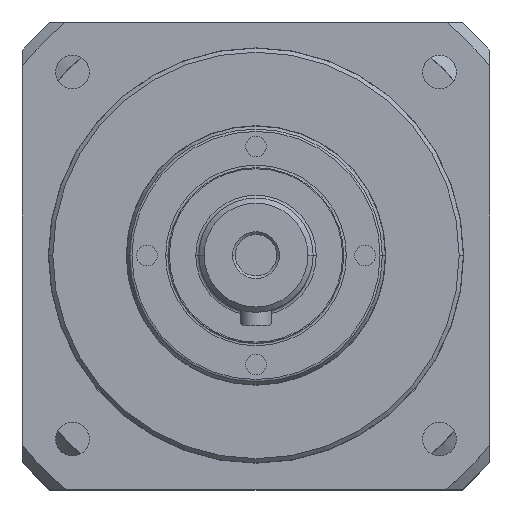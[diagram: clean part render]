
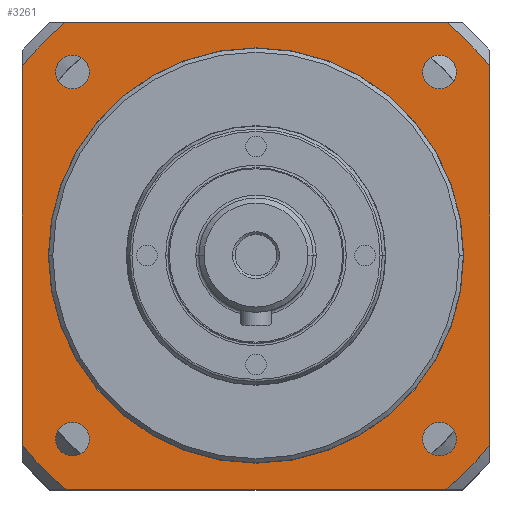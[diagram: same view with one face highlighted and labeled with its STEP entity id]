
A CAD part, top view. The second image highlights one B-rep face of the part: STEP entity #3261.
In plain terms, the highlighted planar face has unit normal (0, 0, 1).
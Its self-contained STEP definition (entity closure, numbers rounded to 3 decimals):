
#1020=CARTESIAN_POINT('',(0.,0.,49.5));
#1021=DIRECTION('',(0.,0.,1.));
#1022=DIRECTION('',(-1.,0.,0.));
#1023=AXIS2_PLACEMENT_3D('',#1020,#1021,#1022);
#1025=CARTESIAN_POINT('',(0.,0.,49.5));
#1026=DIRECTION('',(0.,0.,1.));
#1027=DIRECTION('',(1.,0.,0.));
#1028=AXIS2_PLACEMENT_3D('',#1025,#1026,#1027);
#1030=CARTESIAN_POINT('',(0.,0.,49.5));
#1031=DIRECTION('',(0.,0.,1.));
#1032=DIRECTION('',(-0.776,-0.631,0.));
#1033=AXIS2_PLACEMENT_3D('',#1030,#1031,#1032);
#1035=DIRECTION('',(0.,-1.,0.));
#1036=VECTOR('',#1035,73.185);
#1037=CARTESIAN_POINT('',(-45.,36.592,49.5));
#1038=LINE('',#1037,#1036);
#1039=CARTESIAN_POINT('',(0.,0.,49.5));
#1040=DIRECTION('',(0.,0.,1.));
#1041=DIRECTION('',(-0.631,0.776,0.));
#1042=AXIS2_PLACEMENT_3D('',#1039,#1040,#1041);
#1044=DIRECTION('',(-1.,0.,0.));
#1045=VECTOR('',#1044,73.185);
#1046=CARTESIAN_POINT('',(36.592,45.,49.5));
#1047=LINE('',#1046,#1045);
#1048=CARTESIAN_POINT('',(0.,0.,49.5));
#1049=DIRECTION('',(0.,0.,1.));
#1050=DIRECTION('',(0.776,0.631,0.));
#1051=AXIS2_PLACEMENT_3D('',#1048,#1049,#1050);
#1053=DIRECTION('',(0.,1.,0.));
#1054=VECTOR('',#1053,73.185);
#1055=CARTESIAN_POINT('',(45.,-36.592,49.5));
#1056=LINE('',#1055,#1054);
#1057=CARTESIAN_POINT('',(0.,0.,49.5));
#1058=DIRECTION('',(0.,0.,1.));
#1059=DIRECTION('',(0.631,-0.776,0.));
#1060=AXIS2_PLACEMENT_3D('',#1057,#1058,#1059);
#1062=DIRECTION('',(1.,0.,0.));
#1063=VECTOR('',#1062,73.185);
#1064=CARTESIAN_POINT('',(-36.592,-45.,49.5));
#1065=LINE('',#1064,#1063);
#1066=CARTESIAN_POINT('',(35.355,35.355,49.5));
#1067=DIRECTION('',(0.,0.,-1.));
#1068=DIRECTION('',(-1.,0.,0.));
#1069=AXIS2_PLACEMENT_3D('',#1066,#1067,#1068);
#1071=CARTESIAN_POINT('',(35.355,35.355,49.5));
#1072=DIRECTION('',(0.,0.,-1.));
#1073=DIRECTION('',(1.,0.,0.));
#1074=AXIS2_PLACEMENT_3D('',#1071,#1072,#1073);
#1076=CARTESIAN_POINT('',(-35.355,35.355,49.5));
#1077=DIRECTION('',(0.,0.,-1.));
#1078=DIRECTION('',(-1.,0.,0.));
#1079=AXIS2_PLACEMENT_3D('',#1076,#1077,#1078);
#1081=CARTESIAN_POINT('',(-35.355,35.355,49.5));
#1082=DIRECTION('',(0.,0.,-1.));
#1083=DIRECTION('',(1.,0.,0.));
#1084=AXIS2_PLACEMENT_3D('',#1081,#1082,#1083);
#1086=CARTESIAN_POINT('',(-35.355,-35.355,49.5));
#1087=DIRECTION('',(0.,0.,-1.));
#1088=DIRECTION('',(-1.,0.,0.));
#1089=AXIS2_PLACEMENT_3D('',#1086,#1087,#1088);
#1091=CARTESIAN_POINT('',(-35.355,-35.355,49.5));
#1092=DIRECTION('',(0.,0.,-1.));
#1093=DIRECTION('',(1.,0.,0.));
#1094=AXIS2_PLACEMENT_3D('',#1091,#1092,#1093);
#1096=CARTESIAN_POINT('',(35.355,-35.355,49.5));
#1097=DIRECTION('',(0.,0.,-1.));
#1098=DIRECTION('',(-1.,0.,0.));
#1099=AXIS2_PLACEMENT_3D('',#1096,#1097,#1098);
#1101=CARTESIAN_POINT('',(35.355,-35.355,49.5));
#1102=DIRECTION('',(0.,0.,-1.));
#1103=DIRECTION('',(1.,0.,0.));
#1104=AXIS2_PLACEMENT_3D('',#1101,#1102,#1103);
#2572=CARTESIAN_POINT('',(-45.,-36.592,49.5));
#2573=CARTESIAN_POINT('',(-36.592,-45.,49.5));
#2574=VERTEX_POINT('',#2572);
#2575=VERTEX_POINT('',#2573);
#2576=CARTESIAN_POINT('',(36.592,-45.,49.5));
#2577=CARTESIAN_POINT('',(45.,-36.592,49.5));
#2578=VERTEX_POINT('',#2576);
#2579=VERTEX_POINT('',#2577);
#2580=CARTESIAN_POINT('',(45.,36.592,49.5));
#2581=CARTESIAN_POINT('',(36.592,45.,49.5));
#2582=VERTEX_POINT('',#2580);
#2583=VERTEX_POINT('',#2581);
#2584=CARTESIAN_POINT('',(-36.592,45.,49.5));
#2585=CARTESIAN_POINT('',(-45.,36.592,49.5));
#2586=VERTEX_POINT('',#2584);
#2587=VERTEX_POINT('',#2585);
#2596=CARTESIAN_POINT('',(32.105,35.355,49.5));
#2597=CARTESIAN_POINT('',(38.605,35.355,49.5));
#2598=VERTEX_POINT('',#2596);
#2599=VERTEX_POINT('',#2597);
#2600=CARTESIAN_POINT('',(-38.605,35.355,49.5));
#2601=CARTESIAN_POINT('',(-32.105,35.355,49.5));
#2602=VERTEX_POINT('',#2600);
#2603=VERTEX_POINT('',#2601);
#2604=CARTESIAN_POINT('',(-38.605,-35.355,49.5));
#2605=CARTESIAN_POINT('',(-32.105,-35.355,49.5));
#2606=VERTEX_POINT('',#2604);
#2607=VERTEX_POINT('',#2605);
#2608=CARTESIAN_POINT('',(32.105,-35.355,49.5));
#2609=CARTESIAN_POINT('',(38.605,-35.355,49.5));
#2610=VERTEX_POINT('',#2608);
#2611=VERTEX_POINT('',#2609);
#2672=CARTESIAN_POINT('',(-39.7,0.,49.5));
#2673=CARTESIAN_POINT('',(39.7,0.,49.5));
#2674=VERTEX_POINT('',#2672);
#2675=VERTEX_POINT('',#2673);
#3209=CARTESIAN_POINT('',(0.,0.,49.5));
#3210=DIRECTION('',(0.,0.,1.));
#3211=DIRECTION('',(1.,0.,0.));
#3212=AXIS2_PLACEMENT_3D('',#3209,#3210,#3211);
#3213=PLANE('',#3212);
#3215=ORIENTED_EDGE('',*,*,#3214,.F.);
#3217=ORIENTED_EDGE('',*,*,#3216,.F.);
#3219=ORIENTED_EDGE('',*,*,#3218,.F.);
#3221=ORIENTED_EDGE('',*,*,#3220,.F.);
#3223=ORIENTED_EDGE('',*,*,#3222,.F.);
#3225=ORIENTED_EDGE('',*,*,#3224,.F.);
#3227=ORIENTED_EDGE('',*,*,#3226,.F.);
#3229=ORIENTED_EDGE('',*,*,#3228,.F.);
#3230=EDGE_LOOP('',(#3215,#3217,#3219,#3221,#3223,#3225,#3227,#3229));
#3231=FACE_OUTER_BOUND('',#3230,.F.);
#3233=ORIENTED_EDGE('',*,*,#3232,.T.);
#3234=ORIENTED_EDGE('',*,*,#3199,.T.);
#3235=EDGE_LOOP('',(#3233,#3234));
#3236=FACE_BOUND('',#3235,.F.);
#3238=ORIENTED_EDGE('',*,*,#3237,.F.);
#3240=ORIENTED_EDGE('',*,*,#3239,.F.);
#3241=EDGE_LOOP('',(#3238,#3240));
#3242=FACE_BOUND('',#3241,.F.);
#3244=ORIENTED_EDGE('',*,*,#3243,.F.);
#3246=ORIENTED_EDGE('',*,*,#3245,.F.);
#3247=EDGE_LOOP('',(#3244,#3246));
#3248=FACE_BOUND('',#3247,.F.);
#3250=ORIENTED_EDGE('',*,*,#3249,.F.);
#3252=ORIENTED_EDGE('',*,*,#3251,.F.);
#3253=EDGE_LOOP('',(#3250,#3252));
#3254=FACE_BOUND('',#3253,.F.);
#3256=ORIENTED_EDGE('',*,*,#3255,.F.);
#3258=ORIENTED_EDGE('',*,*,#3257,.F.);
#3259=EDGE_LOOP('',(#3256,#3258));
#3260=FACE_BOUND('',#3259,.F.);
#3261=ADVANCED_FACE('',(#3231,#3236,#3242,#3248,#3254,#3260),#3213,.T.);
#1024=CIRCLE('',#1023,39.7);
#1029=CIRCLE('',#1028,39.7);
#1034=CIRCLE('',#1033,58.);
#1043=CIRCLE('',#1042,58.);
#1052=CIRCLE('',#1051,58.);
#1061=CIRCLE('',#1060,58.);
#1070=CIRCLE('',#1069,3.25);
#1075=CIRCLE('',#1074,3.25);
#1080=CIRCLE('',#1079,3.25);
#1085=CIRCLE('',#1084,3.25);
#1090=CIRCLE('',#1089,3.25);
#1095=CIRCLE('',#1094,3.25);
#1100=CIRCLE('',#1099,3.25);
#1105=CIRCLE('',#1104,3.25);
#3199=EDGE_CURVE('',#2675,#2674,#1029,.T.);
#3214=EDGE_CURVE('',#2574,#2575,#1034,.T.);
#3216=EDGE_CURVE('',#2587,#2574,#1038,.T.);
#3218=EDGE_CURVE('',#2586,#2587,#1043,.T.);
#3220=EDGE_CURVE('',#2583,#2586,#1047,.T.);
#3222=EDGE_CURVE('',#2582,#2583,#1052,.T.);
#3224=EDGE_CURVE('',#2579,#2582,#1056,.T.);
#3226=EDGE_CURVE('',#2578,#2579,#1061,.T.);
#3228=EDGE_CURVE('',#2575,#2578,#1065,.T.);
#3232=EDGE_CURVE('',#2674,#2675,#1024,.T.);
#3237=EDGE_CURVE('',#2598,#2599,#1070,.T.);
#3239=EDGE_CURVE('',#2599,#2598,#1075,.T.);
#3243=EDGE_CURVE('',#2602,#2603,#1080,.T.);
#3245=EDGE_CURVE('',#2603,#2602,#1085,.T.);
#3249=EDGE_CURVE('',#2606,#2607,#1090,.T.);
#3251=EDGE_CURVE('',#2607,#2606,#1095,.T.);
#3255=EDGE_CURVE('',#2610,#2611,#1100,.T.);
#3257=EDGE_CURVE('',#2611,#2610,#1105,.T.);
